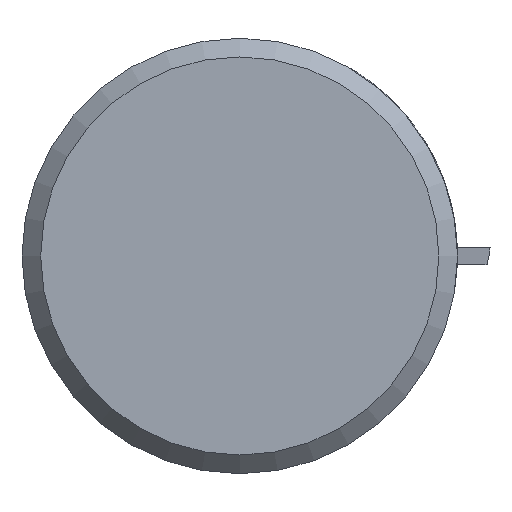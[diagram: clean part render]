
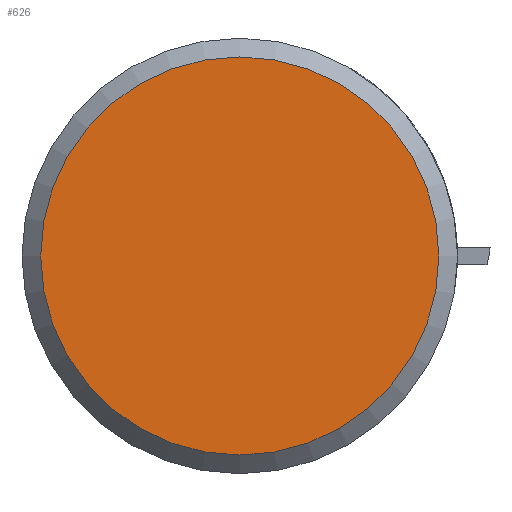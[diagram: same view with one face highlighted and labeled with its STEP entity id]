
A CAD part, left-side view. The second image highlights one B-rep face of the part: STEP entity #626.
In plain terms, the highlighted planar face has unit normal (-1, 0, 0).
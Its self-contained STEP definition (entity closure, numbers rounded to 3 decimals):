
#45=CIRCLE('',#706,10.65);
#102=FACE_OUTER_BOUND('',#138,.T.);
#138=EDGE_LOOP('',(#486));
#279=VERTEX_POINT('',#1112);
#355=EDGE_CURVE('',#279,#279,#45,.T.);
#486=ORIENTED_EDGE('',*,*,#355,.T.);
#562=PLANE('',#705);
#626=ADVANCED_FACE('',(#102),#562,.T.);
#705=AXIS2_PLACEMENT_3D('',#1111,#859,#860);
#706=AXIS2_PLACEMENT_3D('',#1113,#861,#862);
#859=DIRECTION('center_axis',(-1.,0.,0.));
#860=DIRECTION('ref_axis',(0.,0.,1.));
#861=DIRECTION('center_axis',(-1.,0.,0.));
#862=DIRECTION('ref_axis',(0.,0.,1.));
#1111=CARTESIAN_POINT('Origin',(0.,0.,0.));
#1112=CARTESIAN_POINT('',(0.,10.65,0.));
#1113=CARTESIAN_POINT('Origin',(0.,0.,0.));
